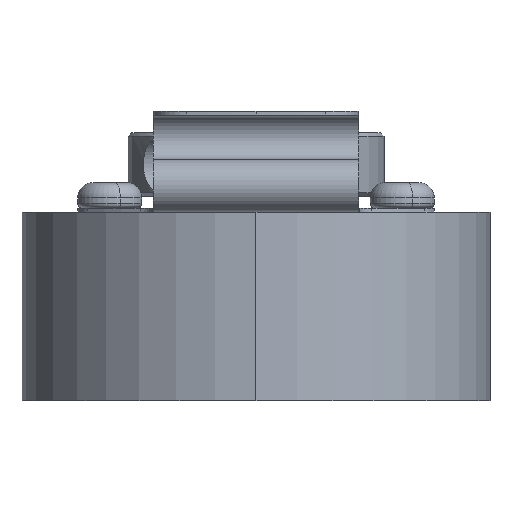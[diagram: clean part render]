
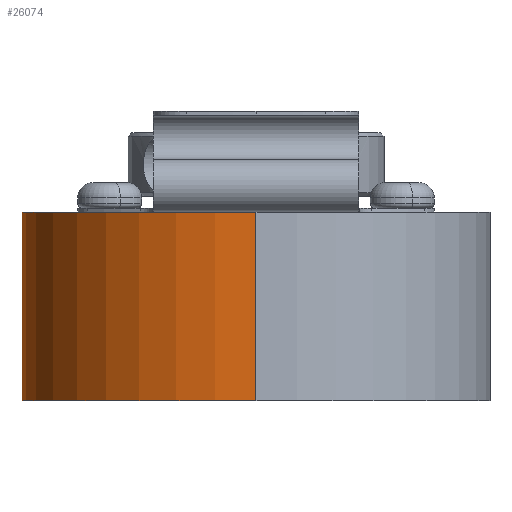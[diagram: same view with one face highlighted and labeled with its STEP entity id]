
A CAD part, left-side view. The second image highlights one B-rep face of the part: STEP entity #26074.
In plain terms, the highlighted cylindrical face has radius 18.25 mm (diameter 36.5 mm), a partial arc.
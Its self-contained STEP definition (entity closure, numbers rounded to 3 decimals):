
#1583 = EDGE_CURVE ( 'NONE', #29099, #7497, #20423, .T. ) ;
#2684 = ORIENTED_EDGE ( 'NONE', *, *, #16957, .F. ) ;
#2793 = EDGE_LOOP ( 'NONE', ( #8729, #5945, #24672, #2684 ) ) ;
#3020 = CARTESIAN_POINT ( 'NONE',  ( 18.25, 0., 0. ) ) ;
#3175 = FACE_OUTER_BOUND ( 'NONE', #2793, .T. ) ;
#3494 = CARTESIAN_POINT ( 'NONE',  ( 0., 0., 984. ) ) ;
#5486 = DIRECTION ( 'NONE',  ( 0., 0., 1. ) ) ;
#5638 = DIRECTION ( 'NONE',  ( 1., 0., 0. ) ) ;
#5945 = ORIENTED_EDGE ( 'NONE', *, *, #23305, .T. ) ;
#7497 = VERTEX_POINT ( 'NONE', #3020 ) ;
#8729 = ORIENTED_EDGE ( 'NONE', *, *, #11604, .T. ) ;
#9501 = AXIS2_PLACEMENT_3D ( 'NONE', #15244, #15655, #19976 ) ;
#10399 = AXIS2_PLACEMENT_3D ( 'NONE', #3494, #10606, #5638 ) ;
#10606 = DIRECTION ( 'NONE',  ( 0., 0., 1. ) ) ;
#11604 = EDGE_CURVE ( 'NONE', #27486, #22697, #21378, .T. ) ;
#12619 = CYLINDRICAL_SURFACE ( 'NONE', #10399, 18.25 ) ;
#12767 = VECTOR ( 'NONE', #29853, 1000. ) ;
#13491 = CARTESIAN_POINT ( 'NONE',  ( -18.25, 0., 0. ) ) ;
#15244 = CARTESIAN_POINT ( 'NONE',  ( 0., 0., 0. ) ) ;
#15339 = CARTESIAN_POINT ( 'NONE',  ( 18.25, 0., -14.7 ) ) ;
#15655 = DIRECTION ( 'NONE',  ( 0., 0., -1. ) ) ;
#16713 = LINE ( 'NONE', #25186, #12767 ) ;
#16957 = EDGE_CURVE ( 'NONE', #27486, #7497, #29128, .T. ) ;
#19354 = CARTESIAN_POINT ( 'NONE',  ( 0., 0., -14.7 ) ) ;
#19976 = DIRECTION ( 'NONE',  ( -1., 0., 0. ) ) ;
#20423 = CIRCLE ( 'NONE', #9501, 18.25 ) ;
#20909 = VECTOR ( 'NONE', #24762, 1000. ) ;
#20969 = AXIS2_PLACEMENT_3D ( 'NONE', #19354, #5486, #21628 ) ;
#21378 = CIRCLE ( 'NONE', #20969, 18.25 ) ;
#21628 = DIRECTION ( 'NONE',  ( 1., 0., 0. ) ) ;
#22697 = VERTEX_POINT ( 'NONE', #28916 ) ;
#23305 = EDGE_CURVE ( 'NONE', #22697, #29099, #16713, .T. ) ;
#24672 = ORIENTED_EDGE ( 'NONE', *, *, #1583, .T. ) ;
#24762 = DIRECTION ( 'NONE',  ( 0., 0., 1. ) ) ;
#25186 = CARTESIAN_POINT ( 'NONE',  ( -18.25, 0., 984. ) ) ;
#26074 = ADVANCED_FACE ( 'NONE', ( #3175 ), #12619, .T. ) ;
#26702 = CARTESIAN_POINT ( 'NONE',  ( 18.25, 0., 984. ) ) ;
#27486 = VERTEX_POINT ( 'NONE', #15339 ) ;
#28916 = CARTESIAN_POINT ( 'NONE',  ( -18.25, 0., -14.7 ) ) ;
#29099 = VERTEX_POINT ( 'NONE', #13491 ) ;
#29128 = LINE ( 'NONE', #26702, #20909 ) ;
#29853 = DIRECTION ( 'NONE',  ( 0., 0., 1. ) ) ;
